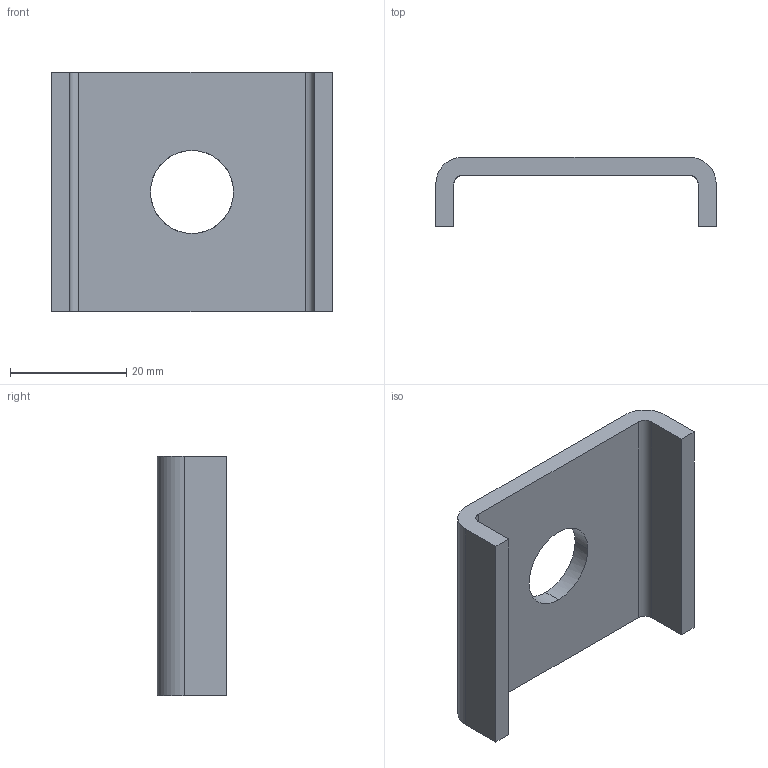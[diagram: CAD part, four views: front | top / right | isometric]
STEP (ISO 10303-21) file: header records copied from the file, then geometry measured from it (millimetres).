
FILE_DESCRIPTION(('TurboCAD Mac Pro'),'Build 980');
FILE_NAME('P2800-50.stp',' ',(''),(''),'ACIS Interop','IMSI','TurboCAD Mac Pro BY IMSI, INCORPORATED');
FILE_SCHEMA(('automotive_design'));
Length unit declared in the file: inch
Products named in the file (2): 1; 2
Bounding box: 48.28 x 11.98 x 41.27 mm (x, y, z)
Volume: 7627.8 mm3; surface area: 5699.4 mm2
Topology: 1 solids, 1 shells, 18 faces, 48 edges, 32 vertices
Faces by surface type: plane 10, bspline 8
Entity records: 1118 total; most frequent: CARTESIAN_POINT 228, ORIENTED_EDGE 96, STYLED_ITEM 67, PRESENTATION_STYLE_ASSIGNMENT 67, COLOUR_RGB 67, DIRECTION 64, EDGE_CURVE 48, CURVE_STYLE 48
